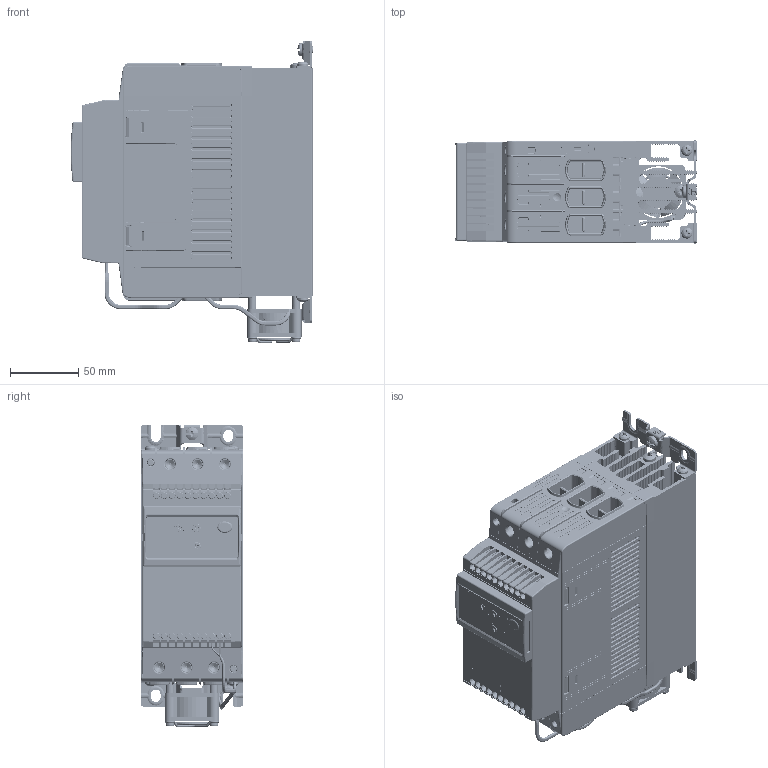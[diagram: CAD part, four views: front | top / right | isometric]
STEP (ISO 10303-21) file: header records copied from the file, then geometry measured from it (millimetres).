
FILE_DESCRIPTION((''),'2;1');
FILE_NAME('CGI1297-00-3D.stp','2016-05-17T11:52:09',(''),(''),'Mechanical Desktop 2011','Mechanical Desktop 2011',', , ');
FILE_SCHEMA(('CONFIG_CONTROL_DESIGN'));
Length unit declared in the file: millimetre
Products named in the file (1): Product
Bounding box: 177.42 x 75.2 x 220.95 mm (x, y, z)
Volume: 393655.9 mm3; surface area: 314838.6 mm2
Topology: 6 solids, 9 shells, 35151 faces, 102473 edges, 67771 vertices
Faces by surface type: plane 29668, bspline 2998, cylinder 2062, torus 181, cone 170, sphere 72
Entity records: 1247140 total; most frequent: CARTESIAN_POINT 322715, ORIENTED_EDGE 204796, DIRECTION 173273, EDGE_CURVE 102398, VECTOR 92763, LINE 92763, VERTEX_POINT 67769, AXIS2_PLACEMENT_3D 40255
